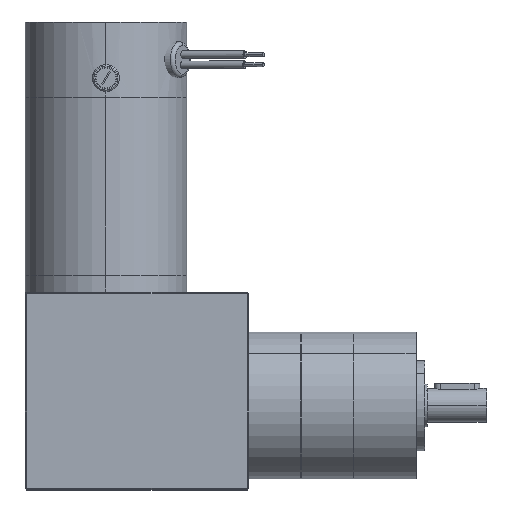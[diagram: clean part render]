
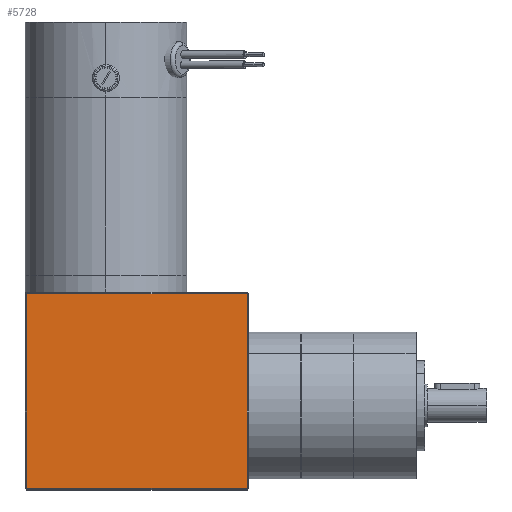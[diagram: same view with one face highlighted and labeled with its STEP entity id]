
A CAD part, top view. The second image highlights one B-rep face of the part: STEP entity #5728.
In plain terms, the highlighted planar face has unit normal (0, 0, 1).
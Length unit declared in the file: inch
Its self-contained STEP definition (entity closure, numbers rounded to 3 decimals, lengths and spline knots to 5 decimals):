
#1329 = DIRECTION ( 'NONE',  ( 0., 1., 0. ) ) ;
#1868 = VECTOR ( 'NONE', #4969, 39.37008 ) ;
#2845 = EDGE_CURVE ( 'NONE', #21106, #16671, #14282, .T. ) ;
#3703 = CARTESIAN_POINT ( 'NONE',  ( 6.18522, 2.12143, 4.88687 ) ) ;
#4104 = DIRECTION ( 'NONE',  ( 1., 0., 0. ) ) ;
#4422 = VECTOR ( 'NONE', #4104, 39.37008 ) ;
#4969 = DIRECTION ( 'NONE',  ( 0., -1., 0. ) ) ;
#5231 = CARTESIAN_POINT ( 'NONE',  ( 7.72172, 3.49643, 4.88687 ) ) ;
#5728 = ADVANCED_FACE ( 'NONE', ( #24725 ), #15498, .T. ) ;
#5788 = DIRECTION ( 'NONE',  ( 0., 0., 1. ) ) ;
#5962 = CARTESIAN_POINT ( 'NONE',  ( 4.64872, 0.76643, 4.88687 ) ) ;
#6761 = VERTEX_POINT ( 'NONE', #23609 ) ;
#7579 = ORIENTED_EDGE ( 'NONE', *, *, #24794, .T. ) ;
#8849 = LINE ( 'NONE', #5231, #9153 ) ;
#9153 = VECTOR ( 'NONE', #1329, 39.37008 ) ;
#9182 = VERTEX_POINT ( 'NONE', #22135 ) ;
#10460 = ORIENTED_EDGE ( 'NONE', *, *, #2845, .T. ) ;
#10563 = AXIS2_PLACEMENT_3D ( 'NONE', #3703, #5788, #17475 ) ;
#11854 = ORIENTED_EDGE ( 'NONE', *, *, #19805, .T. ) ;
#12854 = EDGE_LOOP ( 'NONE', ( #22125, #7579, #11854, #10460 ) ) ;
#13659 = VECTOR ( 'NONE', #15915, 39.37008 ) ;
#14273 = EDGE_CURVE ( 'NONE', #16671, #9182, #23689, .T. ) ;
#14279 = LINE ( 'NONE', #21443, #13659 ) ;
#14282 = LINE ( 'NONE', #18856, #1868 ) ;
#15498 = PLANE ( 'NONE',  #10563 ) ;
#15915 = DIRECTION ( 'NONE',  ( -1., 0., 0. ) ) ;
#16671 = VERTEX_POINT ( 'NONE', #5962 ) ;
#17475 = DIRECTION ( 'NONE',  ( 1., 0., 0. ) ) ;
#18856 = CARTESIAN_POINT ( 'NONE',  ( 4.64872, 0.74643, 4.88687 ) ) ;
#19805 = EDGE_CURVE ( 'NONE', #6761, #21106, #14279, .T. ) ;
#19969 = CARTESIAN_POINT ( 'NONE',  ( 7.74172, 0.76643, 4.88687 ) ) ;
#21106 = VERTEX_POINT ( 'NONE', #22345 ) ;
#21443 = CARTESIAN_POINT ( 'NONE',  ( 4.62872, 3.47643, 4.88687 ) ) ;
#22125 = ORIENTED_EDGE ( 'NONE', *, *, #14273, .T. ) ;
#22135 = CARTESIAN_POINT ( 'NONE',  ( 7.72172, 0.76643, 4.88687 ) ) ;
#22345 = CARTESIAN_POINT ( 'NONE',  ( 4.64872, 3.47643, 4.88687 ) ) ;
#23609 = CARTESIAN_POINT ( 'NONE',  ( 7.72172, 3.47643, 4.88687 ) ) ;
#23689 = LINE ( 'NONE', #19969, #4422 ) ;
#24725 = FACE_OUTER_BOUND ( 'NONE', #12854, .T. ) ;
#24794 = EDGE_CURVE ( 'NONE', #9182, #6761, #8849, .T. ) ;
